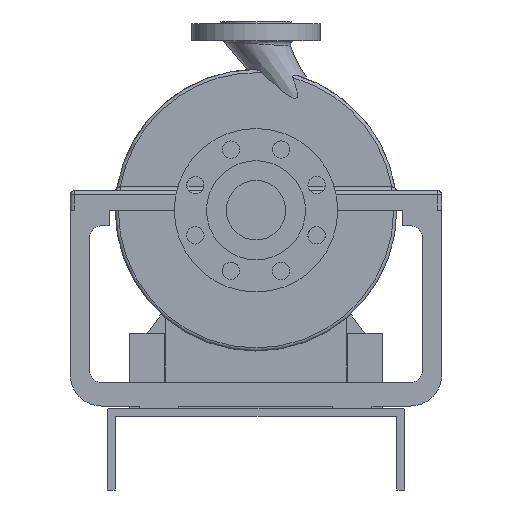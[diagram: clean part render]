
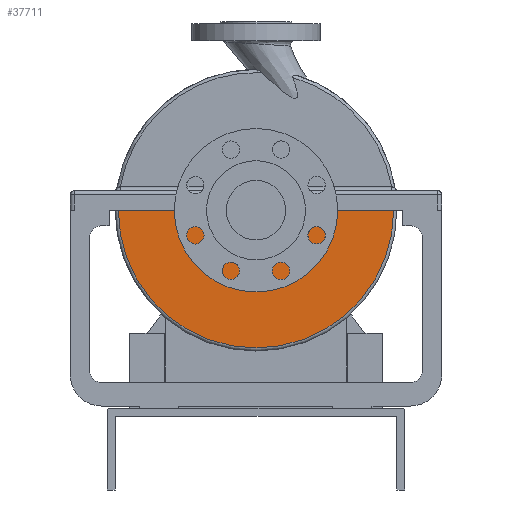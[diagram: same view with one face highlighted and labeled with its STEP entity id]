
A CAD part, front view. The second image highlights one B-rep face of the part: STEP entity #37711.
In plain terms, the highlighted planar face has unit normal (0, -1, 0).
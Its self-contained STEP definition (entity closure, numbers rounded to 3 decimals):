
#861=LINE('',#50039,#3420);
#867=LINE('',#50060,#3426);
#3420=VECTOR('',#42065,1000.);
#3426=VECTOR('',#42081,1000.);
#6040=ORIENTED_EDGE('',*,*,#14098,.T.);
#6041=ORIENTED_EDGE('',*,*,#14042,.F.);
#6042=ORIENTED_EDGE('',*,*,#14099,.T.);
#6043=ORIENTED_EDGE('',*,*,#14052,.F.);
#14042=EDGE_CURVE('',#18072,#18073,#861,.T.);
#14052=EDGE_CURVE('',#18082,#18083,#867,.T.);
#14098=EDGE_CURVE('',#18082,#18073,#20574,.T.);
#14099=EDGE_CURVE('',#18072,#18083,#20575,.F.);
#18072=VERTEX_POINT('',#50038);
#18073=VERTEX_POINT('',#50040);
#18082=VERTEX_POINT('',#50059);
#18083=VERTEX_POINT('',#50061);
#20574=CIRCLE('',#39401,176.5);
#20575=CIRCLE('',#39402,67.071);
#21699=EDGE_LOOP('',(#6040,#6041,#6042,#6043));
#23451=FACE_BOUND('',#21699,.T.);
#25166=PLANE('',#39400);
#37711=ADVANCED_FACE('',(#23451),#25166,.T.);
#39400=AXIS2_PLACEMENT_3D('',#50209,#42178,#42179);
#39401=AXIS2_PLACEMENT_3D('',#50210,#42180,#42181);
#39402=AXIS2_PLACEMENT_3D('',#50211,#42182,#42183);
#42065=DIRECTION('',(1.,0.,0.));
#42081=DIRECTION('',(1.,0.,0.));
#42178=DIRECTION('',(0.,-1.,0.));
#42179=DIRECTION('',(1.,0.,0.));
#42180=DIRECTION('',(0.,-1.,0.));
#42181=DIRECTION('',(1.,0.,0.));
#42182=DIRECTION('',(0.,-1.,0.));
#42183=DIRECTION('',(1.,0.,0.));
#50038=CARTESIAN_POINT('',(67.071,-28.,0.));
#50039=CARTESIAN_POINT('',(0.,-28.,0.));
#50040=CARTESIAN_POINT('',(176.5,-28.,0.));
#50059=CARTESIAN_POINT('',(-176.5,-28.,0.));
#50060=CARTESIAN_POINT('',(0.,-28.,0.));
#50061=CARTESIAN_POINT('',(-67.071,-28.,0.));
#50209=CARTESIAN_POINT('',(0.,-28.,65.));
#50210=CARTESIAN_POINT('',(0.,-28.,0.));
#50211=CARTESIAN_POINT('',(0.,-28.,0.));
